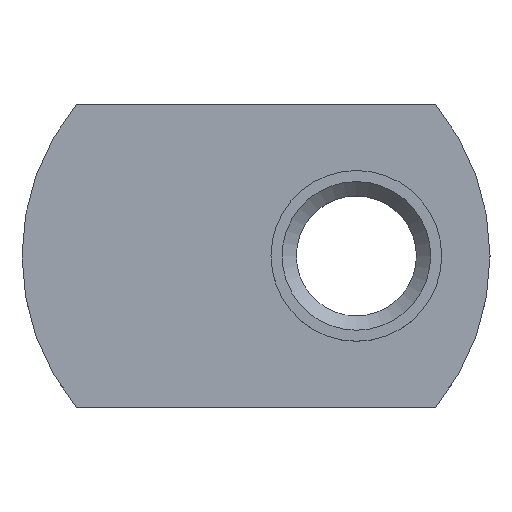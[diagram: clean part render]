
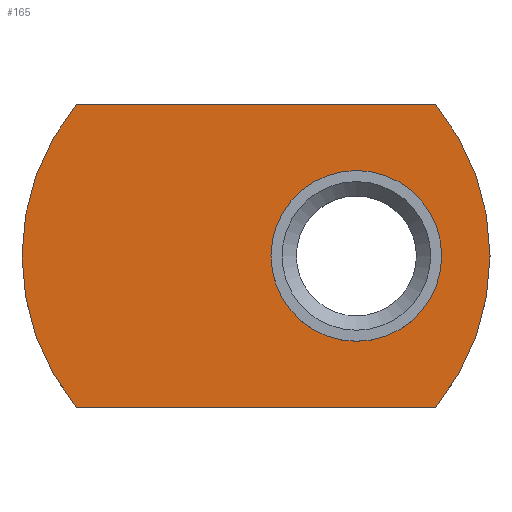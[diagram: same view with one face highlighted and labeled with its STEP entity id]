
A CAD part, top view. The second image highlights one B-rep face of the part: STEP entity #165.
In plain terms, the highlighted planar face has unit normal (0, 0, 1).
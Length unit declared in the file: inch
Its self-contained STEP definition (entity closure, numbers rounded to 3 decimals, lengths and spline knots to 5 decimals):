
#23=CIRCLE('',#188,0.5);
#25=CIRCLE('',#192,0.5);
#26=CIRCLE('',#194,0.1795);
#52=ORIENTED_EDGE('',*,*,#84,.T.);
#53=ORIENTED_EDGE('',*,*,#74,.T.);
#54=ORIENTED_EDGE('',*,*,#78,.T.);
#55=ORIENTED_EDGE('',*,*,#81,.T.);
#56=ORIENTED_EDGE('',*,*,#83,.T.);
#74=EDGE_CURVE('',#93,#92,#106,.T.);
#78=EDGE_CURVE('',#92,#95,#23,.T.);
#81=EDGE_CURVE('',#95,#97,#111,.T.);
#83=EDGE_CURVE('',#97,#93,#25,.T.);
#84=EDGE_CURVE('',#98,#98,#26,.F.);
#92=VERTEX_POINT('',#264);
#93=VERTEX_POINT('',#266);
#95=VERTEX_POINT('',#272);
#97=VERTEX_POINT('',#278);
#98=VERTEX_POINT('',#285);
#106=LINE('',#265,#114);
#111=LINE('',#279,#119);
#114=VECTOR('',#212,39.37008);
#119=VECTOR('',#225,39.37008);
#124=EDGE_LOOP('',(#52));
#125=EDGE_LOOP('',(#53,#54,#55,#56));
#142=FACE_BOUND('',#124,.T.);
#143=FACE_BOUND('',#125,.T.);
#158=PLANE('',#193);
#165=ADVANCED_FACE('',(#142,#143),#158,.T.);
#188=AXIS2_PLACEMENT_3D('',#273,#219,#220);
#192=AXIS2_PLACEMENT_3D('',#282,#230,#231);
#193=AXIS2_PLACEMENT_3D('',#283,#232,#233);
#194=AXIS2_PLACEMENT_3D('',#284,#234,#235);
#212=DIRECTION('',(-1.,0.,0.));
#219=DIRECTION('',(0.,0.,1.));
#220=DIRECTION('',(1.,0.,0.));
#225=DIRECTION('',(1.,0.,0.));
#230=DIRECTION('',(0.,0.,1.));
#231=DIRECTION('',(1.,0.,0.));
#232=DIRECTION('',(0.,0.,1.));
#233=DIRECTION('',(1.,0.,0.));
#234=DIRECTION('',(0.,0.,1.));
#235=DIRECTION('',(1.,0.,0.));
#264=CARTESIAN_POINT('',(-0.58843,0.3185,0.071));
#265=CARTESIAN_POINT('',(0.16643,0.3185,0.071));
#266=CARTESIAN_POINT('',(0.16643,0.3185,0.071));
#272=CARTESIAN_POINT('',(-0.58843,-0.3185,0.071));
#273=CARTESIAN_POINT('',(-0.203,0.,0.071));
#278=CARTESIAN_POINT('',(0.16643,-0.3185,0.071));
#279=CARTESIAN_POINT('',(-0.58843,-0.3185,0.071));
#282=CARTESIAN_POINT('',(-0.219,0.,0.071));
#283=CARTESIAN_POINT('',(-0.203,0.,0.071));
#284=CARTESIAN_POINT('',(0.,0.,0.071));
#285=CARTESIAN_POINT('',(0.1795,0.,0.071));
